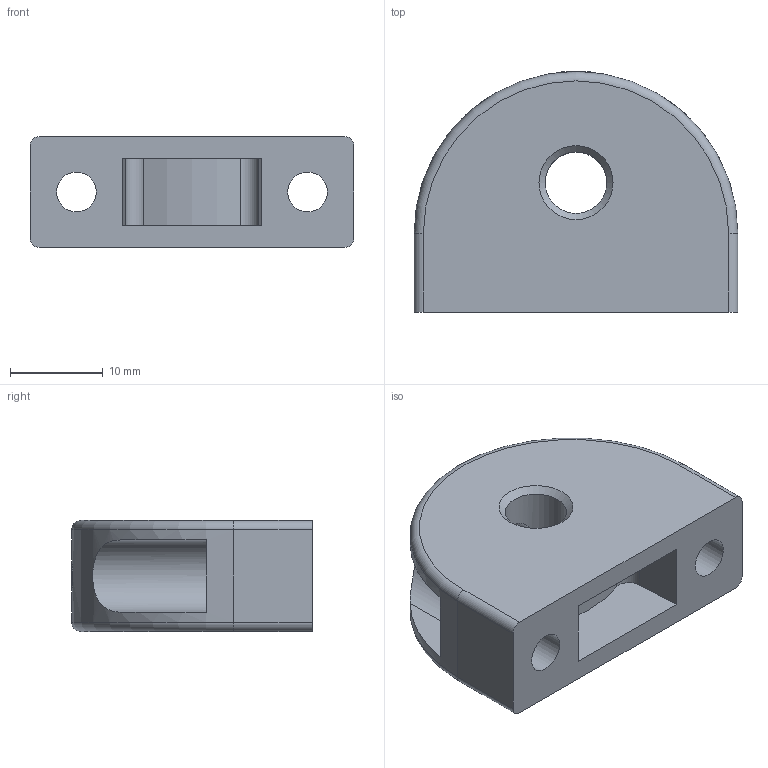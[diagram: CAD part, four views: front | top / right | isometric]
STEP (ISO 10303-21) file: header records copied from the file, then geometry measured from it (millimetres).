
FILE_DESCRIPTION( ( 'STEP AP203' ), '1' );
FILE_NAME( 'C:/Temp/Ganter_Step_05_03_2020/data/3_1/gn412_1/Mounting block GN 412.1-35-M8-1.stp', '2020-03-12T08:30:50', ( 'License CC BY-ND 4.0' ), ( 'CADENAS' ), ' ', 'PARTsolutions', ' ' );
FILE_SCHEMA( ( 'CONFIG_CONTROL_DESIGN' ) );
Length unit declared in the file: millimetre
Products named in the file (1): _Mounting block GN 412.1-35-M8-1
Bounding box: 35 x 26 x 12 mm (x, y, z)
Volume: 6475.9 mm3; surface area: 3955.9 mm2
Topology: 1 solids, 1 shells, 50 faces, 112 edges, 71 vertices
Faces by surface type: plane 27, cylinder 17, cone 4, torus 2
Full cylindrical faces by diameter (mm): 2.5 x1, 4 x2, 4.3 x2, 6.647 x1, 7.8 x2, 8.2 x1
Entity records: 1554 total; most frequent: CARTESIAN_POINT 403, DIRECTION 238, ORIENTED_EDGE 198, EDGE_CURVE 99, AXIS2_PLACEMENT_3D 92, EDGE_LOOP 76, VERTEX_POINT 71, FACE_OUTER_BOUND 59
